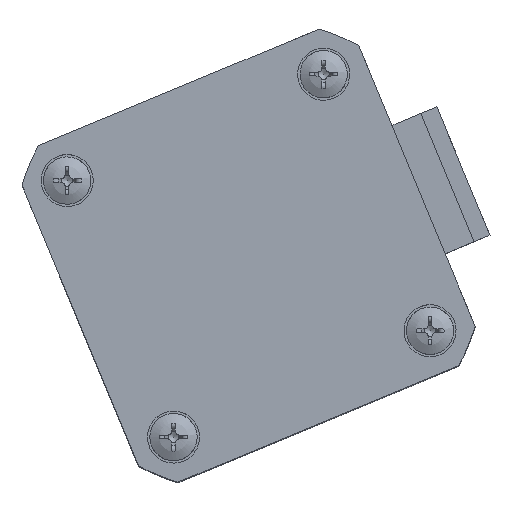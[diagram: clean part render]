
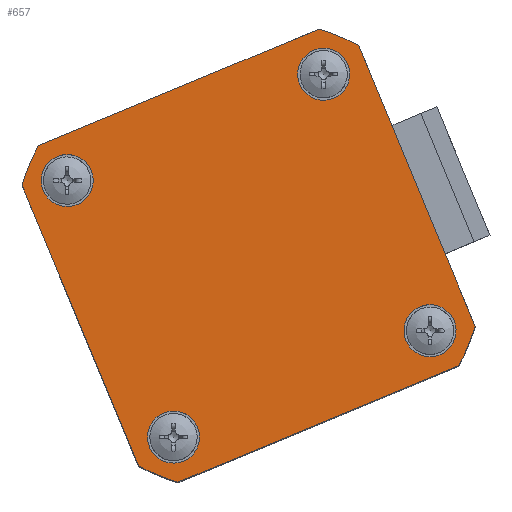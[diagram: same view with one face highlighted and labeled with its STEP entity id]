
A CAD part, top view. The second image highlights one B-rep face of the part: STEP entity #657.
In plain terms, the highlighted planar face has unit normal (0, 0, 1) as drawn and (0, 0, -1) by its records, which use the part's own axes.
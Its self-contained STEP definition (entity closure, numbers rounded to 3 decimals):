
#192=LINE('',#15725,#319);
#204=LINE('',#15749,#331);
#229=LINE('',#15800,#356);
#245=LINE('',#15833,#372);
#253=LINE('',#15856,#380);
#261=LINE('',#16065,#388);
#319=VECTOR('',#2739,1.);
#331=VECTOR('',#2751,1.);
#356=VECTOR('',#2786,1.);
#372=VECTOR('',#2804,1.);
#380=VECTOR('',#2826,1.);
#388=VECTOR('',#2892,1.);
#560=FACE_BOUND('',#1004,.T.);
#561=FACE_BOUND('',#1005,.T.);
#562=FACE_BOUND('',#1006,.T.);
#563=FACE_BOUND('',#1007,.T.);
#564=FACE_BOUND('',#1008,.T.);
#657=ADVANCED_FACE('',(#560,#561,#562,#563,#564),#790,.F.);
#790=PLANE('',#2498);
#1004=EDGE_LOOP('',(#1330));
#1005=EDGE_LOOP('',(#1331));
#1006=EDGE_LOOP('',(#1332));
#1007=EDGE_LOOP('',(#1333));
#1008=EDGE_LOOP('',(#1334,#1335,#1336,#1337,#1338,#1339,#1340,#1341,#1342,
#1343));
#1330=ORIENTED_EDGE('',*,*,#2145,.T.);
#1331=ORIENTED_EDGE('',*,*,#2146,.T.);
#1332=ORIENTED_EDGE('',*,*,#2147,.T.);
#1333=ORIENTED_EDGE('',*,*,#2148,.T.);
#1334=ORIENTED_EDGE('',*,*,#2112,.F.);
#1335=ORIENTED_EDGE('',*,*,#2121,.F.);
#1336=ORIENTED_EDGE('',*,*,#2047,.F.);
#1337=ORIENTED_EDGE('',*,*,#2149,.F.);
#1338=ORIENTED_EDGE('',*,*,#2059,.F.);
#1339=ORIENTED_EDGE('',*,*,#2129,.F.);
#1340=ORIENTED_EDGE('',*,*,#2084,.F.);
#1341=ORIENTED_EDGE('',*,*,#2127,.F.);
#1342=ORIENTED_EDGE('',*,*,#2100,.F.);
#1343=ORIENTED_EDGE('',*,*,#2123,.F.);
#1819=VERTEX_POINT('',#15724);
#1820=VERTEX_POINT('',#15726);
#1831=VERTEX_POINT('',#15748);
#1832=VERTEX_POINT('',#15750);
#1852=VERTEX_POINT('',#15799);
#1853=VERTEX_POINT('',#15801);
#1868=VERTEX_POINT('',#15832);
#1869=VERTEX_POINT('',#15834);
#1876=VERTEX_POINT('',#15855);
#1877=VERTEX_POINT('',#15857);
#1893=VERTEX_POINT('',#16058);
#1894=VERTEX_POINT('',#16060);
#1895=VERTEX_POINT('',#16062);
#1896=VERTEX_POINT('',#16064);
#2047=EDGE_CURVE('',#1819,#1820,#192,.T.);
#2059=EDGE_CURVE('',#1831,#1832,#204,.T.);
#2084=EDGE_CURVE('',#1852,#1853,#229,.T.);
#2100=EDGE_CURVE('',#1868,#1869,#245,.T.);
#2112=EDGE_CURVE('',#1876,#1877,#253,.T.);
#2121=EDGE_CURVE('',#1820,#1876,#2342,.T.);
#2123=EDGE_CURVE('',#1877,#1868,#2344,.T.);
#2127=EDGE_CURVE('',#1869,#1852,#2348,.T.);
#2129=EDGE_CURVE('',#1853,#1831,#2350,.T.);
#2145=EDGE_CURVE('',#1893,#1893,#2358,.T.);
#2146=EDGE_CURVE('',#1894,#1894,#2359,.T.);
#2147=EDGE_CURVE('',#1895,#1895,#2360,.T.);
#2148=EDGE_CURVE('',#1896,#1896,#2361,.T.);
#2149=EDGE_CURVE('',#1832,#1819,#261,.T.);
#2342=CIRCLE('',#2471,27.35);
#2344=CIRCLE('',#2474,27.35);
#2348=CIRCLE('',#2480,27.35);
#2350=CIRCLE('',#2483,27.35);
#2358=CIRCLE('',#2494,3.);
#2359=CIRCLE('',#2495,3.);
#2360=CIRCLE('',#2496,3.);
#2361=CIRCLE('',#2497,3.);
#2471=AXIS2_PLACEMENT_3D('',#15873,#2838,#2839);
#2474=AXIS2_PLACEMENT_3D('',#15876,#2844,#2845);
#2480=AXIS2_PLACEMENT_3D('',#15882,#2856,#2857);
#2483=AXIS2_PLACEMENT_3D('',#15885,#2862,#2863);
#2494=AXIS2_PLACEMENT_3D('',#16057,#2884,#2885);
#2495=AXIS2_PLACEMENT_3D('',#16059,#2886,#2887);
#2496=AXIS2_PLACEMENT_3D('',#16061,#2888,#2889);
#2497=AXIS2_PLACEMENT_3D('',#16063,#2890,#2891);
#2498=AXIS2_PLACEMENT_3D('',#16066,#2893,#2894);
#2739=DIRECTION('',(0.,-1.,0.));
#2751=DIRECTION('',(0.,-1.,0.));
#2786=DIRECTION('',(-1.,0.,0.));
#2804=DIRECTION('',(0.,1.,0.));
#2826=DIRECTION('',(1.,0.,0.));
#2838=DIRECTION('',(0.,0.,1.));
#2839=DIRECTION('',(1.,0.,0.));
#2844=DIRECTION('',(0.,0.,1.));
#2845=DIRECTION('',(1.,0.,0.));
#2856=DIRECTION('',(0.,0.,1.));
#2857=DIRECTION('',(1.,0.,0.));
#2862=DIRECTION('',(0.,0.,1.));
#2863=DIRECTION('',(1.,0.,0.));
#2884=DIRECTION('',(0.,0.,1.));
#2885=DIRECTION('',(0.,1.,0.));
#2886=DIRECTION('',(0.,0.,1.));
#2887=DIRECTION('',(1.,0.,0.));
#2888=DIRECTION('',(0.,0.,1.));
#2889=DIRECTION('',(0.,-1.,0.));
#2890=DIRECTION('',(0.,0.,1.));
#2891=DIRECTION('',(-1.,0.,0.));
#2892=DIRECTION('',(0.,-1.,0.));
#2893=DIRECTION('',(0.,0.,1.));
#2894=DIRECTION('',(1.,0.,0.));
#15724=CARTESIAN_POINT('',(-21.,-8.478,0.));
#15725=CARTESIAN_POINT('',(-21.,17.522,0.));
#15726=CARTESIAN_POINT('',(-21.,-17.522,0.));
#15748=CARTESIAN_POINT('',(-21.,17.522,0.));
#15749=CARTESIAN_POINT('',(-21.,17.522,0.));
#15750=CARTESIAN_POINT('',(-21.,7.522,0.));
#15799=CARTESIAN_POINT('',(17.522,21.,0.));
#15800=CARTESIAN_POINT('',(17.522,21.,0.));
#15801=CARTESIAN_POINT('',(-17.522,21.,0.));
#15832=CARTESIAN_POINT('',(21.,-17.522,0.));
#15833=CARTESIAN_POINT('',(21.,-17.522,0.));
#15834=CARTESIAN_POINT('',(21.,17.522,0.));
#15855=CARTESIAN_POINT('',(-17.522,-21.,0.));
#15856=CARTESIAN_POINT('',(-17.522,-21.,0.));
#15857=CARTESIAN_POINT('',(17.522,-21.,0.));
#15873=CARTESIAN_POINT('',(0.,0.,0.));
#15876=CARTESIAN_POINT('',(0.,0.,0.));
#15882=CARTESIAN_POINT('',(0.,0.,0.));
#15885=CARTESIAN_POINT('',(0.,0.,0.));
#16057=CARTESIAN_POINT('',(-16.,16.,0.));
#16058=CARTESIAN_POINT('',(-16.,19.,0.));
#16059=CARTESIAN_POINT('',(16.,16.,0.));
#16060=CARTESIAN_POINT('',(19.,16.,0.));
#16061=CARTESIAN_POINT('',(16.,-16.,0.));
#16062=CARTESIAN_POINT('',(16.,-19.,0.));
#16063=CARTESIAN_POINT('',(-16.,-16.,0.));
#16064=CARTESIAN_POINT('',(-19.,-16.,0.));
#16065=CARTESIAN_POINT('',(-21.,17.522,0.));
#16066=CARTESIAN_POINT('',(0.,0.,0.));
